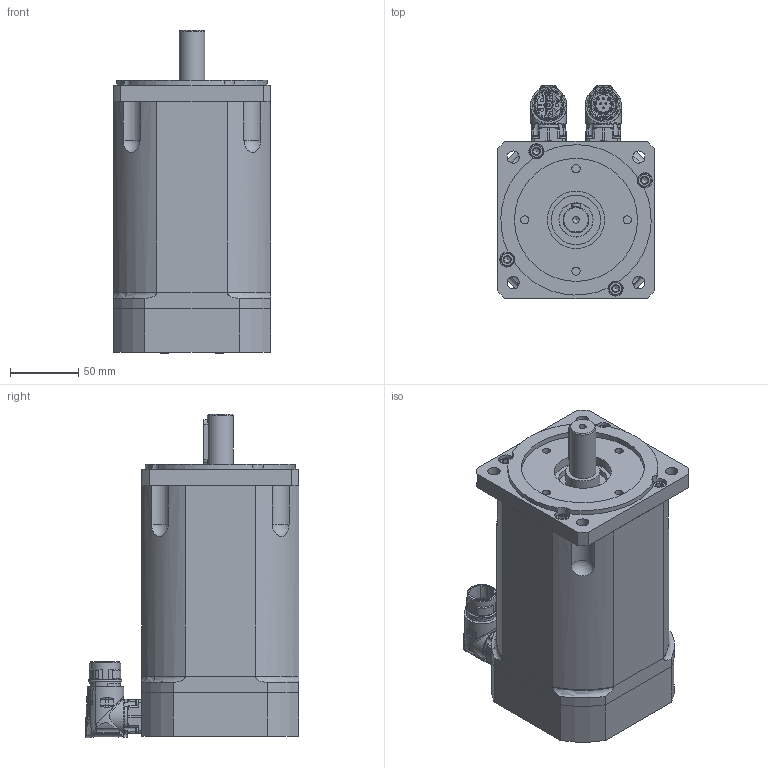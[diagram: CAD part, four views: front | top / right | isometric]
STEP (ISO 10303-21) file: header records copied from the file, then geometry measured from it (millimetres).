
FILE_DESCRIPTION(/* description */ (''),/* implementation_level */ '2;1');
FILE_NAME(/* name */ 'C:\Users\Public\Documents\Autodesk\Inventor LT 2014\Workspace\Motori Sito WEB\TG_4\STEP_DSM5_4x\DSM5_41_x197.stp',/* time_stamp */ '2021-03-31T14:13:25+02:00',/* author */ ('marcor'),/* organization */ (''),/* preprocessor_version */ 'ST-DEVELOPER v15.2',/* originating_system */ 'Autodesk Inventor LT ',/* authorisation */ '');
FILE_SCHEMA (('AUTOMOTIVE_DESIGN { 1 0 10303 214 3 1 1 }'));
Products named in the file (1): DSM5_41_x197
Bounding box: 115 x 156.5 x 236.41 mm (x, y, z)
Volume: 2382956.4 mm3; surface area: 217539.5 mm2
Topology: 16 solids, 30 shells, 1483 faces, 3878 edges, 2582 vertices
Faces by surface type: plane 526, cylinder 446, cone 291, bspline 113, torus 75, sphere 32
Full cylindrical faces by diameter (mm): 1.2 x12, 2.224 x8, 2.233 x6, 2.5 x8, 2.88 x8, 3.26 x8, 4.134 x4, 4.5 x2, 4.8 x8, 4.917 x13, 5 x4, 5.5 x7, 5.9 x2, 6 x12, 6.5 x8, 8.5 x4, 9 x4, 10 x12, 11 x8, 15.2 x1, 17.4 x3, 18 x1, 19 x1, 19.8 x1, 21.15 x4, 21.6 x1, 21.653 x2, 23.8 x1, 24.3 x2, 24.9 x1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
Entity records: 52540 total; most frequent: CARTESIAN_POINT 17895, ORIENTED_EDGE 6862, DIRECTION 6425, EDGE_CURVE 3431, AXIS2_PLACEMENT_3D 2617, VERTEX_POINT 2461, EDGE_LOOP 2002, ADVANCED_FACE 1483
